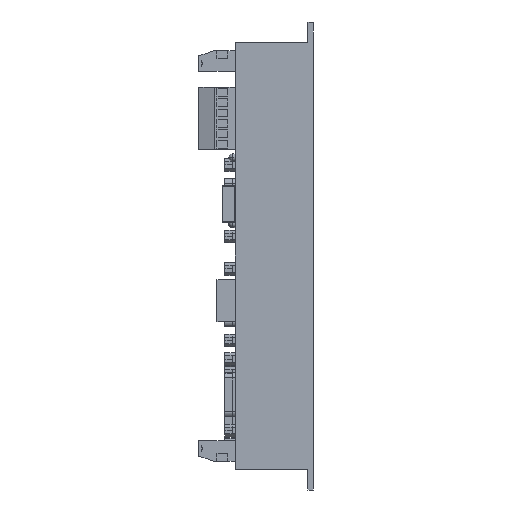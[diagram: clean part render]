
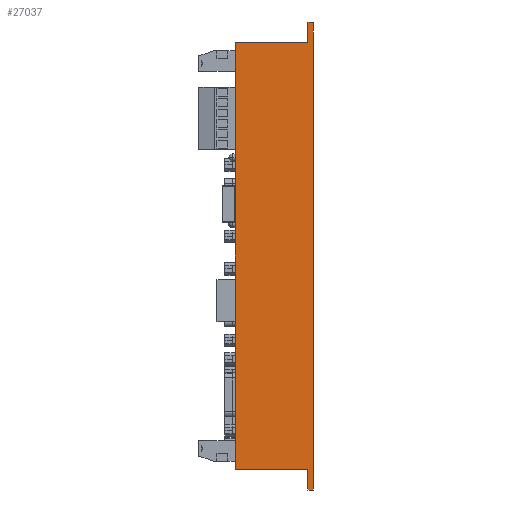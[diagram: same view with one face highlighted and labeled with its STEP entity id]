
A CAD part, left-side view. The second image highlights one B-rep face of the part: STEP entity #27037.
In plain terms, the highlighted planar face has unit normal (-1, 0, 0).
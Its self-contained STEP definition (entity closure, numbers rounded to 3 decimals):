
#2028 = CARTESIAN_POINT ( 'NONE',  ( 0., 0., -104.297 ) ) ;
#2039 = CARTESIAN_POINT ( 'NONE',  ( 0., 2., 67.703 ) ) ;
#4814 = VECTOR ( 'NONE', #64918, 1000. ) ;
#4906 = VECTOR ( 'NONE', #52978, 1000. ) ;
#6888 = CARTESIAN_POINT ( 'NONE',  ( 0., 30., 67.703 ) ) ;
#9332 = ORIENTED_EDGE ( 'NONE', *, *, #11482, .F. ) ;
#11482 = EDGE_CURVE ( 'NONE', #14670, #32799, #20012, .T. ) ;
#12622 = DIRECTION ( 'NONE',  ( 0., -1., 0. ) ) ;
#13344 = CARTESIAN_POINT ( 'NONE',  ( 0., 0., -104.297 ) ) ;
#14670 = VERTEX_POINT ( 'NONE', #18724 ) ;
#17506 = VERTEX_POINT ( 'NONE', #52653 ) ;
#18684 = CARTESIAN_POINT ( 'NONE',  ( 0., 0., 75.703 ) ) ;
#18724 = CARTESIAN_POINT ( 'NONE',  ( 0., 2., 75.703 ) ) ;
#19816 = LINE ( 'NONE', #13344, #25221 ) ;
#19986 = LINE ( 'NONE', #59144, #4814 ) ;
#20012 = LINE ( 'NONE', #63075, #63847 ) ;
#21340 = ORIENTED_EDGE ( 'NONE', *, *, #70806, .F. ) ;
#23117 = ORIENTED_EDGE ( 'NONE', *, *, #68392, .F. ) ;
#25221 = VECTOR ( 'NONE', #53106, 1000. ) ;
#25858 = FACE_OUTER_BOUND ( 'NONE', #36420, .T. ) ;
#27037 = ADVANCED_FACE ( 'NONE', ( #25858 ), #53912, .F. ) ;
#29483 = DIRECTION ( 'NONE',  ( 0., 0., 1. ) ) ;
#30865 = DIRECTION ( 'NONE',  ( 1., 0., 0. ) ) ;
#31013 = CARTESIAN_POINT ( 'NONE',  ( 0., 30., 67.703 ) ) ;
#32799 = VERTEX_POINT ( 'NONE', #60874 ) ;
#32962 = VERTEX_POINT ( 'NONE', #50917 ) ;
#36420 = EDGE_LOOP ( 'NONE', ( #9332, #45795, #54711, #21340, #72052, #44601, #23117, #52551 ) ) ;
#36506 = DIRECTION ( 'NONE',  ( 0., 1., 0. ) ) ;
#36657 = LINE ( 'NONE', #43295, #65278 ) ;
#37813 = VERTEX_POINT ( 'NONE', #45030 ) ;
#40976 = VERTEX_POINT ( 'NONE', #31013 ) ;
#40997 = EDGE_CURVE ( 'NONE', #67248, #14670, #36657, .T. ) ;
#42631 = AXIS2_PLACEMENT_3D ( 'NONE', #48182, #30865, #59641 ) ;
#43295 = CARTESIAN_POINT ( 'NONE',  ( 0., 2., 67.703 ) ) ;
#44601 = ORIENTED_EDGE ( 'NONE', *, *, #60810, .F. ) ;
#45030 = CARTESIAN_POINT ( 'NONE',  ( 0., 2., -96.297 ) ) ;
#45795 = ORIENTED_EDGE ( 'NONE', *, *, #40997, .F. ) ;
#45822 = DIRECTION ( 'NONE',  ( 0., -1., 0. ) ) ;
#46799 = VECTOR ( 'NONE', #36506, 1000. ) ;
#46969 = LINE ( 'NONE', #6888, #50598 ) ;
#48182 = CARTESIAN_POINT ( 'NONE',  ( 0., 0., 0. ) ) ;
#48403 = EDGE_CURVE ( 'NONE', #32799, #72940, #50545, .T. ) ;
#50545 = LINE ( 'NONE', #18684, #4906 ) ;
#50598 = VECTOR ( 'NONE', #12622, 1000. ) ;
#50917 = CARTESIAN_POINT ( 'NONE',  ( 0., 2., -104.297 ) ) ;
#52551 = ORIENTED_EDGE ( 'NONE', *, *, #48403, .F. ) ;
#52653 = CARTESIAN_POINT ( 'NONE',  ( 0., 30., -96.297 ) ) ;
#52978 = DIRECTION ( 'NONE',  ( 0., 0., -1. ) ) ;
#53106 = DIRECTION ( 'NONE',  ( 0., 1., 0. ) ) ;
#53912 = PLANE ( 'NONE',  #42631 ) ;
#54711 = ORIENTED_EDGE ( 'NONE', *, *, #66566, .F. ) ;
#57030 = EDGE_CURVE ( 'NONE', #37813, #17506, #60202, .T. ) ;
#59144 = CARTESIAN_POINT ( 'NONE',  ( 0., 2., -104.297 ) ) ;
#59641 = DIRECTION ( 'NONE',  ( 0., 0., -1. ) ) ;
#60202 = LINE ( 'NONE', #70730, #46799 ) ;
#60289 = DIRECTION ( 'NONE',  ( 0., 0., 1. ) ) ;
#60810 = EDGE_CURVE ( 'NONE', #32962, #37813, #19986, .T. ) ;
#60874 = CARTESIAN_POINT ( 'NONE',  ( 0., 0., 75.703 ) ) ;
#63075 = CARTESIAN_POINT ( 'NONE',  ( 0., 2., 75.703 ) ) ;
#63797 = CARTESIAN_POINT ( 'NONE',  ( 0., 30., -96.297 ) ) ;
#63847 = VECTOR ( 'NONE', #45822, 1000. ) ;
#64918 = DIRECTION ( 'NONE',  ( 0., 0., 1. ) ) ;
#65278 = VECTOR ( 'NONE', #60289, 1000. ) ;
#66566 = EDGE_CURVE ( 'NONE', #40976, #67248, #46969, .T. ) ;
#67248 = VERTEX_POINT ( 'NONE', #2039 ) ;
#68392 = EDGE_CURVE ( 'NONE', #72940, #32962, #19816, .T. ) ;
#70730 = CARTESIAN_POINT ( 'NONE',  ( 0., 2., -96.297 ) ) ;
#70806 = EDGE_CURVE ( 'NONE', #17506, #40976, #73147, .T. ) ;
#71323 = VECTOR ( 'NONE', #29483, 1000. ) ;
#72052 = ORIENTED_EDGE ( 'NONE', *, *, #57030, .F. ) ;
#72940 = VERTEX_POINT ( 'NONE', #2028 ) ;
#73147 = LINE ( 'NONE', #63797, #71323 ) ;
